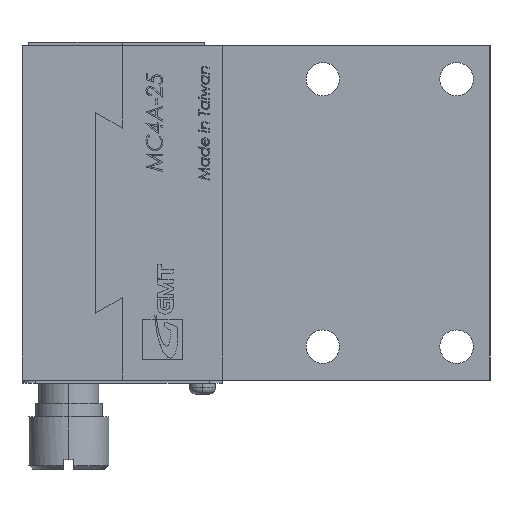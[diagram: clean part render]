
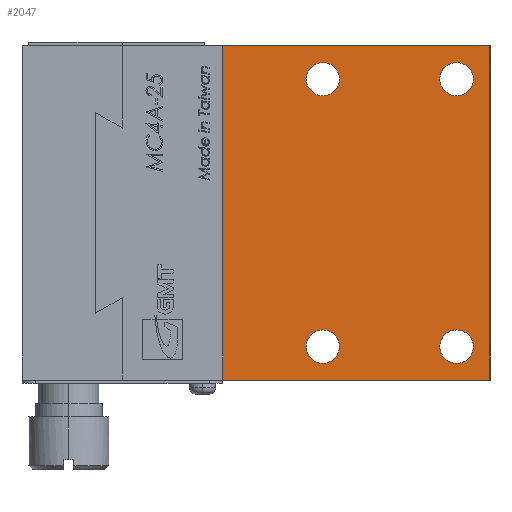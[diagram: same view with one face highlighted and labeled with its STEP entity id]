
A CAD part, left-side view. The second image highlights one B-rep face of the part: STEP entity #2047.
In plain terms, the highlighted planar face has unit normal (-1, 0, 0).
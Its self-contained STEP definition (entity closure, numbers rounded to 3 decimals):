
#1874 = EDGE_CURVE ( 'NONE', #2001, #2003, #16608, .T. ) ;
#1887 = VERTEX_POINT ( 'NONE', #16673 ) ;
#1888 = ORIENTED_EDGE ( 'NONE', *, *, #1889, .F. ) ;
#1889 = EDGE_CURVE ( 'NONE', #2080, #1887, #16672, .T. ) ;
#1899 = VERTEX_POINT ( 'NONE', #11318 ) ;
#1943 = EDGE_CURVE ( 'NONE', #1899, #1944, #11323, .T. ) ;
#1944 = VERTEX_POINT ( 'NONE', #11415 ) ;
#1960 = VERTEX_POINT ( 'NONE', #11289 ) ;
#1964 = VERTEX_POINT ( 'NONE', #11284 ) ;
#1991 = VERTEX_POINT ( 'NONE', #11261 ) ;
#1993 = EDGE_CURVE ( 'NONE', #1991, #1994, #11260, .T. ) ;
#1994 = VERTEX_POINT ( 'NONE', #11255 ) ;
#2001 = VERTEX_POINT ( 'NONE', #11333 ) ;
#2003 = VERTEX_POINT ( 'NONE', #11332 ) ;
#2046 = EDGE_CURVE ( 'NONE', #1960, #1964, #11509, .T. ) ;
#2047 = ADVANCED_FACE ( 'NONE', ( #11505, #11504, #11503, #11534, #11533 ), #11532, .F. ) ;
#2048 = EDGE_LOOP ( 'NONE', ( #2049, #2066 ) ) ;
#2049 = ORIENTED_EDGE ( 'NONE', *, *, #2050, .F. ) ;
#2050 = EDGE_CURVE ( 'NONE', #2059, #2056, #11527, .T. ) ;
#2056 = VERTEX_POINT ( 'NONE', #11598 ) ;
#2058 = EDGE_CURVE ( 'NONE', #2056, #2059, #11597, .T. ) ;
#2059 = VERTEX_POINT ( 'NONE', #11592 ) ;
#2066 = ORIENTED_EDGE ( 'NONE', *, *, #2058, .F. ) ;
#2067 = EDGE_LOOP ( 'NONE', ( #2068, #2070 ) ) ;
#2068 = ORIENTED_EDGE ( 'NONE', *, *, #2069, .F. ) ;
#2069 = EDGE_CURVE ( 'NONE', #2003, #2001, #11427, .T. ) ;
#2070 = ORIENTED_EDGE ( 'NONE', *, *, #1874, .F. ) ;
#2071 = EDGE_LOOP ( 'NONE', ( #2072, #2074 ) ) ;
#2072 = ORIENTED_EDGE ( 'NONE', *, *, #2073, .F. ) ;
#2073 = EDGE_CURVE ( 'NONE', #1944, #1899, #11617, .T. ) ;
#2074 = ORIENTED_EDGE ( 'NONE', *, *, #1943, .F. ) ;
#2075 = EDGE_LOOP ( 'NONE', ( #2076, #2078 ) ) ;
#2076 = ORIENTED_EDGE ( 'NONE', *, *, #2077, .F. ) ;
#2077 = EDGE_CURVE ( 'NONE', #1994, #1991, #11613, .T. ) ;
#2078 = ORIENTED_EDGE ( 'NONE', *, *, #1993, .F. ) ;
#2079 = EDGE_LOOP ( 'NONE', ( #2081, #2083, #2084, #1888 ) ) ;
#2080 = VERTEX_POINT ( 'NONE', #11609 ) ;
#2081 = ORIENTED_EDGE ( 'NONE', *, *, #2082, .F. ) ;
#2082 = EDGE_CURVE ( 'NONE', #1960, #2080, #11608, .T. ) ;
#2083 = ORIENTED_EDGE ( 'NONE', *, *, #2046, .T. ) ;
#2084 = ORIENTED_EDGE ( 'NONE', *, *, #2085, .F. ) ;
#2085 = EDGE_CURVE ( 'NONE', #1887, #1964, #11469, .T. ) ;
#11255 = CARTESIAN_POINT ( 'NONE',  ( -25., -26.25, 10. ) ) ;
#11256 = DIRECTION ( 'NONE',  ( 0., -1., 0. ) ) ;
#11257 = DIRECTION ( 'NONE',  ( -1., 0., 0. ) ) ;
#11258 = CARTESIAN_POINT ( 'NONE',  ( -25., -25., 10. ) ) ;
#11259 = AXIS2_PLACEMENT_3D ( 'NONE', #11258, #11257, #11256 ) ;
#11260 = CIRCLE ( 'NONE', #11259, 1.25 ) ;
#11261 = CARTESIAN_POINT ( 'NONE',  ( -25., -23.75, 10. ) ) ;
#11284 = CARTESIAN_POINT ( 'NONE',  ( -25., -7.5, -12.5 ) ) ;
#11289 = CARTESIAN_POINT ( 'NONE',  ( -25., -7.5, 12.5 ) ) ;
#11318 = CARTESIAN_POINT ( 'NONE',  ( -25., -13.75, 10. ) ) ;
#11319 = DIRECTION ( 'NONE',  ( 0., -1., 0. ) ) ;
#11320 = DIRECTION ( 'NONE',  ( -1., 0., 0. ) ) ;
#11321 = CARTESIAN_POINT ( 'NONE',  ( -25., -15., 10. ) ) ;
#11322 = AXIS2_PLACEMENT_3D ( 'NONE', #11321, #11320, #11319 ) ;
#11323 = CIRCLE ( 'NONE', #11322, 1.25 ) ;
#11332 = CARTESIAN_POINT ( 'NONE',  ( -25., -26.25, -10. ) ) ;
#11333 = CARTESIAN_POINT ( 'NONE',  ( -25., -23.75, -10. ) ) ;
#11415 = CARTESIAN_POINT ( 'NONE',  ( -25., -16.25, 10. ) ) ;
#11423 = DIRECTION ( 'NONE',  ( 0., -1., 0. ) ) ;
#11424 = DIRECTION ( 'NONE',  ( -1., 0., 0. ) ) ;
#11425 = CARTESIAN_POINT ( 'NONE',  ( -25., -25., -10. ) ) ;
#11426 = AXIS2_PLACEMENT_3D ( 'NONE', #11425, #11424, #11423 ) ;
#11427 = CIRCLE ( 'NONE', #11426, 1.25 ) ;
#11428 = CARTESIAN_POINT ( 'NONE',  ( -25., -15., 10. ) ) ;
#11466 = DIRECTION ( 'NONE',  ( 0., 1., 0. ) ) ;
#11467 = VECTOR ( 'NONE', #11466, 1000. ) ;
#11468 = CARTESIAN_POINT ( 'NONE',  ( -25., -7.5, -12.5 ) ) ;
#11469 = LINE ( 'NONE', #11468, #11467 ) ;
#11470 = DIRECTION ( 'NONE',  ( 0., -1., 0. ) ) ;
#11471 = VECTOR ( 'NONE', #11470, 1000. ) ;
#11472 = CARTESIAN_POINT ( 'NONE',  ( -25., -7.5, 12.5 ) ) ;
#11503 = FACE_BOUND ( 'NONE', #2071, .T. ) ;
#11504 = FACE_BOUND ( 'NONE', #2067, .T. ) ;
#11505 = FACE_BOUND ( 'NONE', #2048, .T. ) ;
#11506 = DIRECTION ( 'NONE',  ( 0., 0., -1. ) ) ;
#11507 = VECTOR ( 'NONE', #11506, 1000. ) ;
#11508 = CARTESIAN_POINT ( 'NONE',  ( -25., -7.5, 55. ) ) ;
#11509 = LINE ( 'NONE', #11508, #11507 ) ;
#11523 = DIRECTION ( 'NONE',  ( 0., -1., 0. ) ) ;
#11524 = DIRECTION ( 'NONE',  ( -1., 0., 0. ) ) ;
#11525 = CARTESIAN_POINT ( 'NONE',  ( -25., -15., -10. ) ) ;
#11526 = AXIS2_PLACEMENT_3D ( 'NONE', #11525, #11524, #11523 ) ;
#11527 = CIRCLE ( 'NONE', #11526, 1.25 ) ;
#11528 = DIRECTION ( 'NONE',  ( 0., 1., 0. ) ) ;
#11529 = DIRECTION ( 'NONE',  ( 1., 0., 0. ) ) ;
#11530 = CARTESIAN_POINT ( 'NONE',  ( -25., -7.5, 55. ) ) ;
#11531 = AXIS2_PLACEMENT_3D ( 'NONE', #11530, #11529, #11528 ) ;
#11532 = PLANE ( 'NONE',  #11531 ) ;
#11533 = FACE_OUTER_BOUND ( 'NONE', #2079, .T. ) ;
#11534 = FACE_BOUND ( 'NONE', #2075, .T. ) ;
#11592 = CARTESIAN_POINT ( 'NONE',  ( -25., -16.25, -10. ) ) ;
#11593 = DIRECTION ( 'NONE',  ( 0., -1., 0. ) ) ;
#11594 = DIRECTION ( 'NONE',  ( -1., 0., 0. ) ) ;
#11595 = CARTESIAN_POINT ( 'NONE',  ( -25., -15., -10. ) ) ;
#11596 = AXIS2_PLACEMENT_3D ( 'NONE', #11595, #11594, #11593 ) ;
#11597 = CIRCLE ( 'NONE', #11596, 1.25 ) ;
#11598 = CARTESIAN_POINT ( 'NONE',  ( -25., -13.75, -10. ) ) ;
#11608 = LINE ( 'NONE', #11472, #11471 ) ;
#11609 = CARTESIAN_POINT ( 'NONE',  ( -25., -27.5, 12.5 ) ) ;
#11610 = DIRECTION ( 'NONE',  ( 0., -1., 0. ) ) ;
#11611 = DIRECTION ( 'NONE',  ( -1., 0., 0. ) ) ;
#11612 = AXIS2_PLACEMENT_3D ( 'NONE', #11618, #11611, #11610 ) ;
#11613 = CIRCLE ( 'NONE', #11612, 1.25 ) ;
#11614 = DIRECTION ( 'NONE',  ( 0., -1., 0. ) ) ;
#11615 = DIRECTION ( 'NONE',  ( -1., 0., 0. ) ) ;
#11616 = AXIS2_PLACEMENT_3D ( 'NONE', #11428, #11615, #11614 ) ;
#11617 = CIRCLE ( 'NONE', #11616, 1.25 ) ;
#11618 = CARTESIAN_POINT ( 'NONE',  ( -25., -25., 10. ) ) ;
#16608 = CIRCLE ( 'NONE', #16708, 1.25 ) ;
#16669 = DIRECTION ( 'NONE',  ( 0., 0., -1. ) ) ;
#16670 = VECTOR ( 'NONE', #16669, 1000. ) ;
#16671 = CARTESIAN_POINT ( 'NONE',  ( -25., -27.5, 55. ) ) ;
#16672 = LINE ( 'NONE', #16671, #16670 ) ;
#16673 = CARTESIAN_POINT ( 'NONE',  ( -25., -27.5, -12.5 ) ) ;
#16705 = DIRECTION ( 'NONE',  ( 0., -1., 0. ) ) ;
#16706 = DIRECTION ( 'NONE',  ( -1., 0., 0. ) ) ;
#16707 = CARTESIAN_POINT ( 'NONE',  ( -25., -25., -10. ) ) ;
#16708 = AXIS2_PLACEMENT_3D ( 'NONE', #16707, #16706, #16705 ) ;
